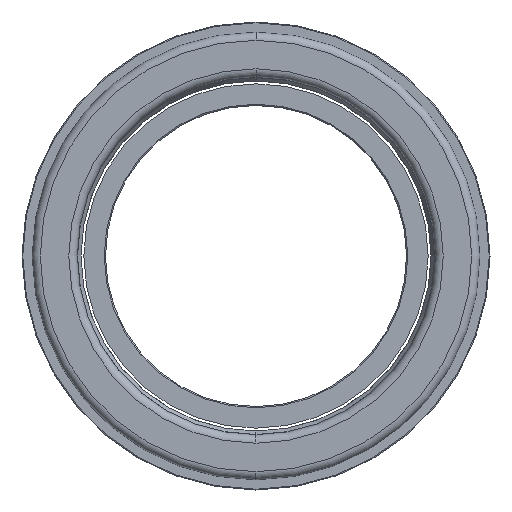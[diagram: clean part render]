
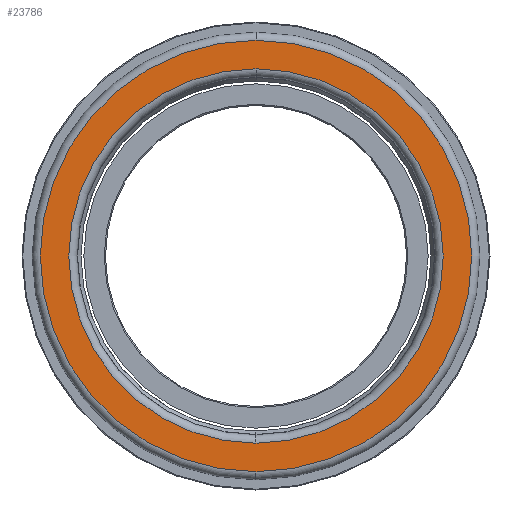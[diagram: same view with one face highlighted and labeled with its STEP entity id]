
A CAD part, left-side view. The second image highlights one B-rep face of the part: STEP entity #23786.
In plain terms, the highlighted planar face has unit normal (-1, 0, 0).
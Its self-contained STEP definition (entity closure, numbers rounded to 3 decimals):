
#1535 = VERTEX_POINT ( 'NONE', #1785 ) ;
#1785 = CARTESIAN_POINT ( 'NONE',  ( 0., 0., -46. ) ) ;
#1857 = CARTESIAN_POINT ( 'NONE',  ( 0., 0., 0. ) ) ;
#2058 = FACE_OUTER_BOUND ( 'NONE', #4729, .T. ) ;
#3541 = ORIENTED_EDGE ( 'NONE', *, *, #13206, .T. ) ;
#4729 = EDGE_LOOP ( 'NONE', ( #3541, #15193 ) ) ;
#5919 = CARTESIAN_POINT ( 'NONE',  ( 0., 0., -53. ) ) ;
#6046 = AXIS2_PLACEMENT_3D ( 'NONE', #17864, #11561, #23978 ) ;
#7058 = VERTEX_POINT ( 'NONE', #18054 ) ;
#7645 = AXIS2_PLACEMENT_3D ( 'NONE', #13746, #7718, #23631 ) ;
#7718 = DIRECTION ( 'NONE',  ( -1., 0., 0. ) ) ;
#8001 = DIRECTION ( 'NONE',  ( -1., 0., 0. ) ) ;
#8112 = CIRCLE ( 'NONE', #6046, 46. ) ;
#9054 = AXIS2_PLACEMENT_3D ( 'NONE', #1857, #15912, #15993 ) ;
#9466 = DIRECTION ( 'NONE',  ( 1., 0., 0. ) ) ;
#9646 = AXIS2_PLACEMENT_3D ( 'NONE', #25335, #9466, #21900 ) ;
#9979 = ORIENTED_EDGE ( 'NONE', *, *, #20372, .F. ) ;
#10211 = CIRCLE ( 'NONE', #10359, 53. ) ;
#10359 = AXIS2_PLACEMENT_3D ( 'NONE', #26166, #8001, #17959 ) ;
#11322 = CIRCLE ( 'NONE', #7645, 46. ) ;
#11561 = DIRECTION ( 'NONE',  ( -1., 0., 0. ) ) ;
#13206 = EDGE_CURVE ( 'NONE', #7058, #16176, #18390, .T. ) ;
#13746 = CARTESIAN_POINT ( 'NONE',  ( 0., 0., 0. ) ) ;
#14458 = EDGE_CURVE ( 'NONE', #1535, #23030, #8112, .T. ) ;
#15193 = ORIENTED_EDGE ( 'NONE', *, *, #16429, .T. ) ;
#15912 = DIRECTION ( 'NONE',  ( -1., 0., 0. ) ) ;
#15993 = DIRECTION ( 'NONE',  ( 0., 0., 1. ) ) ;
#16176 = VERTEX_POINT ( 'NONE', #5919 ) ;
#16429 = EDGE_CURVE ( 'NONE', #16176, #7058, #10211, .T. ) ;
#16615 = FACE_BOUND ( 'NONE', #17941, .T. ) ;
#17864 = CARTESIAN_POINT ( 'NONE',  ( 0., 0., 0. ) ) ;
#17941 = EDGE_LOOP ( 'NONE', ( #9979, #26063 ) ) ;
#17959 = DIRECTION ( 'NONE',  ( 0., 0., 1. ) ) ;
#18054 = CARTESIAN_POINT ( 'NONE',  ( 0., 0., 53. ) ) ;
#18390 = CIRCLE ( 'NONE', #9054, 53. ) ;
#20372 = EDGE_CURVE ( 'NONE', #23030, #1535, #11322, .T. ) ;
#21900 = DIRECTION ( 'NONE',  ( 0., 0., -1. ) ) ;
#22654 = CARTESIAN_POINT ( 'NONE',  ( 0., 0., 46. ) ) ;
#23030 = VERTEX_POINT ( 'NONE', #22654 ) ;
#23323 = PLANE ( 'NONE',  #9646 ) ;
#23631 = DIRECTION ( 'NONE',  ( 0., 0., 1. ) ) ;
#23786 = ADVANCED_FACE ( 'NONE', ( #16615, #2058 ), #23323, .F. ) ;
#23978 = DIRECTION ( 'NONE',  ( 0., 0., 1. ) ) ;
#25335 = CARTESIAN_POINT ( 'NONE',  ( 0., 46., 0. ) ) ;
#26063 = ORIENTED_EDGE ( 'NONE', *, *, #14458, .F. ) ;
#26166 = CARTESIAN_POINT ( 'NONE',  ( 0., 0., 0. ) ) ;
